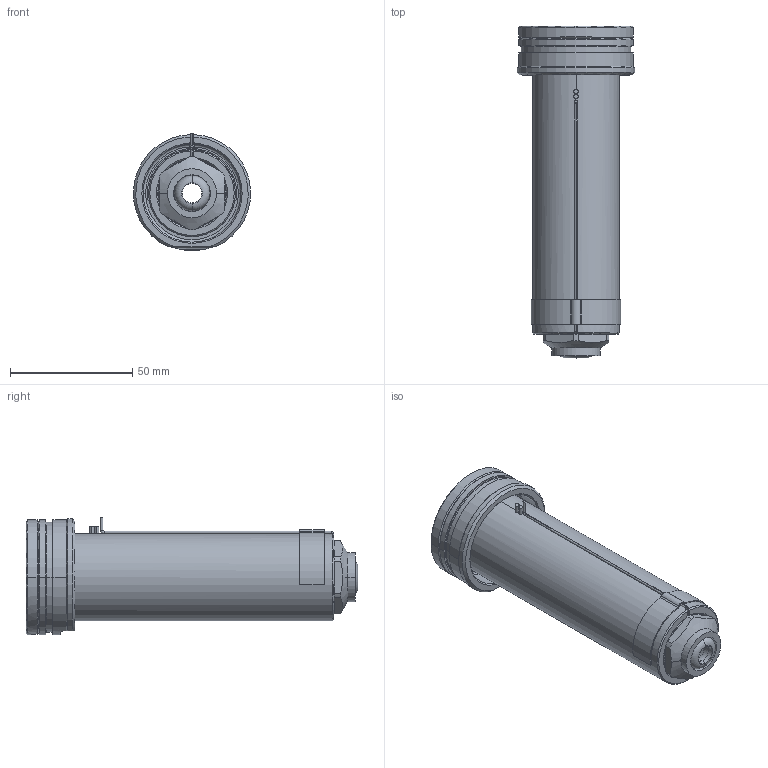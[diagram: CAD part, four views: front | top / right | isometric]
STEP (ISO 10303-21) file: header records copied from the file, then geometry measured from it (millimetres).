
FILE_DESCRIPTION((''),'2;1');
FILE_NAME('EO16_VG-BL_STD_120_SW','2024-02-19T13:18:35',('sundharh'),(''),'CREO PARAMETRIC BY PTC INC, 2023154','CREO PARAMETRIC BY PTC INC, 2023154','');
FILE_SCHEMA(('CONFIG_CONTROL_DESIGN'));
Length unit declared in the file: millimetre
Products named in the file (1): EO16_VG-BL_STD_120_SW
Bounding box: 47.97 x 135.8 x 48 mm (x, y, z)
Volume: 114865.7 mm3; surface area: 30575.3 mm2
Topology: 1 solids, 1 shells, 192 faces, 463 edges, 279 vertices
Faces by surface type: cylinder 72, plane 46, cone 37, torus 22, bspline 13, sphere 2
Entity records: 6462 total; most frequent: CARTESIAN_POINT 1907, DIRECTION 1020, ORIENTED_EDGE 914, EDGE_CURVE 457, AXIS2_PLACEMENT_3D 426, VERTEX_POINT 279, CIRCLE 247, EDGE_LOOP 208
